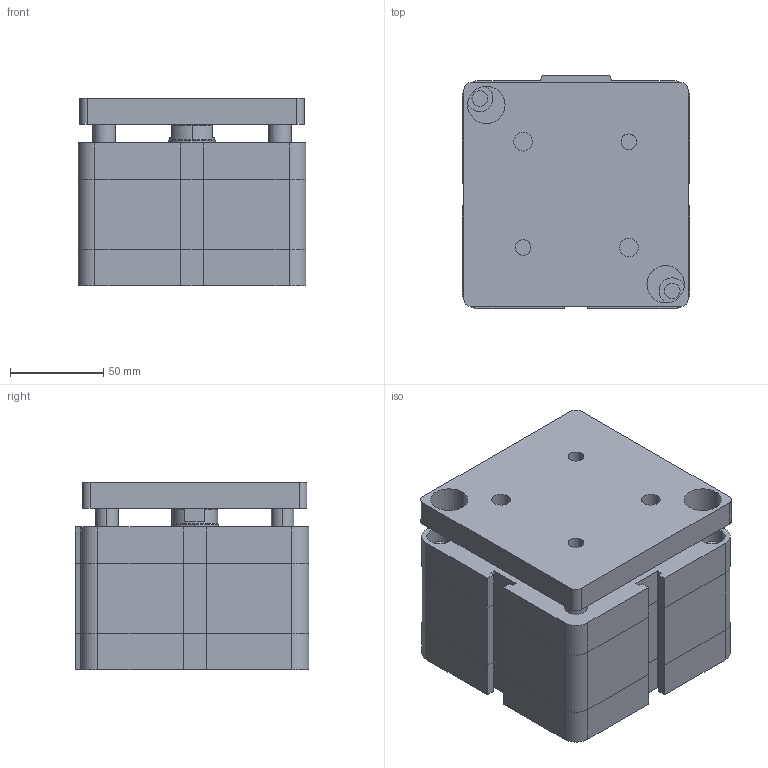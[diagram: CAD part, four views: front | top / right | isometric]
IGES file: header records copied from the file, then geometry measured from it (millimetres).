
Global section: file name: No Iges File Name specified; native system: Autodesk Inventor 2009; preprocessor: AutoDesk Inventor Iges Exporter R2009; author: maffial1; date: 20090420.201419; units: millimetre
Bounding box: 122 x 125 x 100.5 mm (x, y, z)
Volume: 1302812.3 mm3; surface area: 123260 mm2
Topology: 2 solids, 2 shells, 212 faces, 486 edges, 298 vertices
Faces by surface type: plane 111, bspline 67, cylinder 26, cone 8
